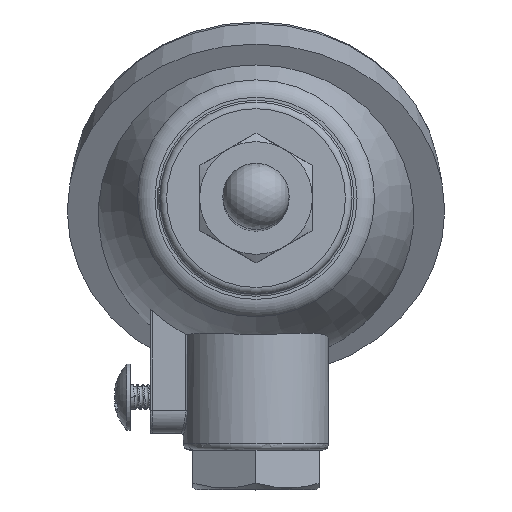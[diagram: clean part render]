
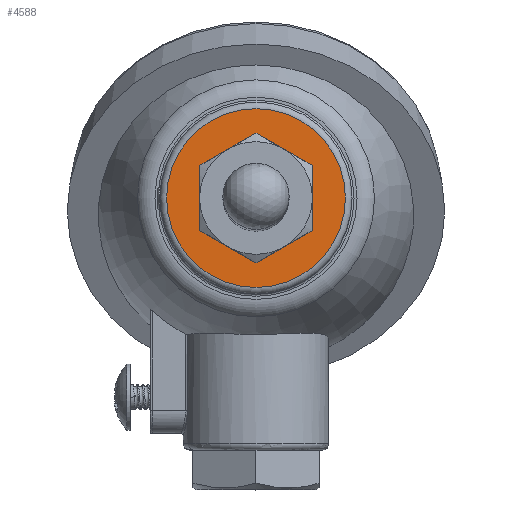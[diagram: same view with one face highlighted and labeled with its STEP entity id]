
A CAD part, top view. The second image highlights one B-rep face of the part: STEP entity #4588.
In plain terms, the highlighted planar face has unit normal (0, 0, 1).
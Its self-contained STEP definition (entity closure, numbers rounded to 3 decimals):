
#101 = ORIENTED_EDGE ( 'NONE', *, *, #3875, .T. ) ;
#126 = LINE ( 'NONE', #1995, #6150 ) ;
#247 = DIRECTION ( 'NONE',  ( 0., 0., -1. ) ) ;
#290 = EDGE_CURVE ( 'NONE', #473, #1545, #394, .T. ) ;
#346 = EDGE_CURVE ( 'NONE', #623, #7298, #7038, .T. ) ;
#378 = EDGE_CURVE ( 'NONE', #1545, #7521, #997, .T. ) ;
#394 = LINE ( 'NONE', #435, #1146 ) ;
#435 = CARTESIAN_POINT ( 'NONE',  ( 0., 9.8, -5. ) ) ;
#473 = VERTEX_POINT ( 'NONE', #1145 ) ;
#494 = CARTESIAN_POINT ( 'NONE',  ( -8.487, -4.9, -5. ) ) ;
#623 = VERTEX_POINT ( 'NONE', #3181 ) ;
#739 = ORIENTED_EDGE ( 'NONE', *, *, #5173, .F. ) ;
#847 = PLANE ( 'NONE',  #1947 ) ;
#972 = DIRECTION ( 'NONE',  ( 0., 1., 0. ) ) ;
#997 = LINE ( 'NONE', #4719, #1787 ) ;
#1064 = ORIENTED_EDGE ( 'NONE', *, *, #290, .F. ) ;
#1088 = EDGE_LOOP ( 'NONE', ( #4757, #739, #6343, #1064, #2921, #6812 ) ) ;
#1145 = CARTESIAN_POINT ( 'NONE',  ( 0., 9.8, -5. ) ) ;
#1146 = VECTOR ( 'NONE', #5118, 1000. ) ;
#1195 = EDGE_CURVE ( 'NONE', #7114, #473, #2754, .T. ) ;
#1269 = CIRCLE ( 'NONE', #6922, 13.5 ) ;
#1460 = CARTESIAN_POINT ( 'NONE',  ( 0., 13.5, -5. ) ) ;
#1545 = VERTEX_POINT ( 'NONE', #7368 ) ;
#1570 = DIRECTION ( 'NONE',  ( -0.866, 0.5, 0. ) ) ;
#1787 = VECTOR ( 'NONE', #7148, 1000. ) ;
#1947 = AXIS2_PLACEMENT_3D ( 'NONE', #5729, #247, #6992 ) ;
#1995 = CARTESIAN_POINT ( 'NONE',  ( 8.487, -4.9, -5. ) ) ;
#2569 = CARTESIAN_POINT ( 'NONE',  ( -8.487, -4.9, -5. ) ) ;
#2754 = LINE ( 'NONE', #2795, #3853 ) ;
#2795 = CARTESIAN_POINT ( 'NONE',  ( 8.487, 4.9, -5. ) ) ;
#2921 = ORIENTED_EDGE ( 'NONE', *, *, #1195, .F. ) ;
#3181 = CARTESIAN_POINT ( 'NONE',  ( 0., -9.8, -5. ) ) ;
#3264 = VERTEX_POINT ( 'NONE', #1460 ) ;
#3743 = VECTOR ( 'NONE', #7497, 1000. ) ;
#3820 = LINE ( 'NONE', #2569, #3743 ) ;
#3853 = VECTOR ( 'NONE', #1570, 1000. ) ;
#3875 = EDGE_CURVE ( 'NONE', #3264, #3264, #1269, .T. ) ;
#4404 = DIRECTION ( 'NONE',  ( 0., 1., 0. ) ) ;
#4524 = FACE_BOUND ( 'NONE', #1088, .T. ) ;
#4588 = ADVANCED_FACE ( 'NONE', ( #4524, #7467 ), #847, .F. ) ;
#4659 = CARTESIAN_POINT ( 'NONE',  ( 0., 0., -5. ) ) ;
#4693 = DIRECTION ( 'NONE',  ( 0., 0., 1. ) ) ;
#4719 = CARTESIAN_POINT ( 'NONE',  ( -8.487, 4.9, -5. ) ) ;
#4757 = ORIENTED_EDGE ( 'NONE', *, *, #346, .F. ) ;
#5118 = DIRECTION ( 'NONE',  ( -0.866, -0.5, 0. ) ) ;
#5173 = EDGE_CURVE ( 'NONE', #7521, #623, #3820, .T. ) ;
#5729 = CARTESIAN_POINT ( 'NONE',  ( 0., 0., -5. ) ) ;
#5844 = CARTESIAN_POINT ( 'NONE',  ( 0., -9.8, -5. ) ) ;
#5941 = EDGE_LOOP ( 'NONE', ( #101 ) ) ;
#6150 = VECTOR ( 'NONE', #4404, 1000. ) ;
#6343 = ORIENTED_EDGE ( 'NONE', *, *, #378, .F. ) ;
#6457 = CARTESIAN_POINT ( 'NONE',  ( 8.487, 4.9, -5. ) ) ;
#6812 = ORIENTED_EDGE ( 'NONE', *, *, #7621, .F. ) ;
#6908 = VECTOR ( 'NONE', #7117, 1000. ) ;
#6922 = AXIS2_PLACEMENT_3D ( 'NONE', #4659, #4693, #972 ) ;
#6992 = DIRECTION ( 'NONE',  ( 0., 1., 0. ) ) ;
#7038 = LINE ( 'NONE', #5844, #6908 ) ;
#7114 = VERTEX_POINT ( 'NONE', #6457 ) ;
#7117 = DIRECTION ( 'NONE',  ( 0.866, 0.5, 0. ) ) ;
#7148 = DIRECTION ( 'NONE',  ( 0., -1., 0. ) ) ;
#7174 = CARTESIAN_POINT ( 'NONE',  ( 8.487, -4.9, -5. ) ) ;
#7298 = VERTEX_POINT ( 'NONE', #7174 ) ;
#7368 = CARTESIAN_POINT ( 'NONE',  ( -8.487, 4.9, -5. ) ) ;
#7467 = FACE_OUTER_BOUND ( 'NONE', #5941, .T. ) ;
#7497 = DIRECTION ( 'NONE',  ( 0.866, -0.5, 0. ) ) ;
#7521 = VERTEX_POINT ( 'NONE', #494 ) ;
#7621 = EDGE_CURVE ( 'NONE', #7298, #7114, #126, .T. ) ;
